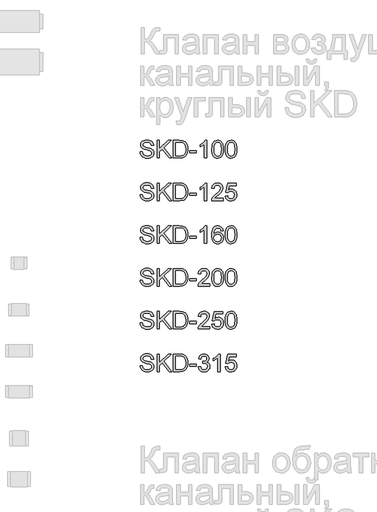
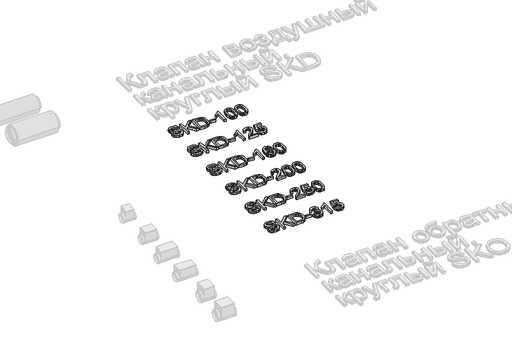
# One storey, part 10 of 31: 1 proxy.
"""IFC4 building model written with IfcOpenShell, lengths in millimetres."""

from ifc_helpers import new_model, si_unit, origin, origin_with_axes, place, context, project, spatial, polyline, outline, extrude, element, save

model = new_model("IFC4")

# Units and contexts
model_context = context("Model", 3, world=origin())
ifc_project = project(units=[si_unit("LENGTHUNIT", "METRE", prefix="MILLI")], contexts=[model_context])

# Site, building, storey
site = spatial("IfcSite", under=ifc_project)
building = spatial("IfcBuilding", under=site)
storey = spatial("IfcBuildingStorey", under=building, Name="Этаж 01", Elevation=0.0)

# Proxy
placement = place(None, origin())
element("IfcBuildingElementProxy", 1, Name="300 мм Arial", ObjectType="300 мм Arial", at=placement, inside=storey, context=model_context, shape_type="SweptSolid", body=[
    extrude(outline(polyline([(10401.5155654, -17131.4797028), (10439.1866817, -17131.4797028), (10443.5092951, -17152.3845972), (10451.3267875, -17169.1876073), (10463.5220757, -17182.5233296), (10480.9780763, -17193.0263606), (10502.3152321, -17199.8413745), (10526.1539854, -17202.1130459), (10547.1416532, -17200.3931975), (10565.5173588, -17195.2336526), (10580.4073826, -17187.0666723), (10590.9380047, -17176.324518), (10597.2011957, -17163.9912741), (10599.288926, -17151.0510249), (10597.7254275, -17138.4418696), (10593.0349321, -17127.5433654), (10583.5067884, -17118.245148), (10567.4303452, -17110.4368527), (10512.5791397, -17096.0526667), (10476.5726895, -17086.53372), (10453.5340795, -17077.4746259), (10434.7812948, -17064.8010912), (10421.4915577, -17049.4420179), (10413.5728978, -17031.7284998), (10410.9333445, -17011.9916308), (10414.1982972, -16989.9279081), (10423.9931553, -16969.3541075), (10440.0604014, -16951.9165009), (10462.1425182, -16939.2613603), (10488.6484159, -16931.5634296), (10517.9870051, -16928.9974526), (10549.7720094, -16931.6829912), (10577.5838883, -16939.7396069), (10600.4293602, -16953.0017528), (10617.3151438, -16971.3038821), (10628.0021157, -16993.5055605), (10632.2511528, -17018.4663539), (10594.5800365, -17018.4663539), (10587.6638549, -16995.988764), (10573.2428807, -16979.765168), (10550.7101085, -16969.9427187), (10519.458533, -16966.668569), (10487.4711936, -16969.9059305), (10465.5270325, -16979.6180152), (10452.8351037, -16993.9102307), (10448.6044608, -17010.8879848), (10451.602699, -17025.3641413), (10460.5974138, -17037.0076064), (10481.8609931, -17047.4186669), (10522.1072834, -17058.0504566), (10563.6411607, -17068.1488173), (10588.7675009, -17076.9595911), (10610.2426124, -17090.6264072), (10625.2246067, -17107.4937967), (10634.0261834, -17127.3778185), (10636.9600423, -17150.0945317), (10633.584725, -17173.3170827), (10623.4587731, -17195.1600762), (10606.9960538, -17213.9588461), (10584.6104344, -17228.0487265), (10557.6906694, -17236.8503033), (10527.6255133, -17239.7841622), (10490.7177522, -17236.620377), (10460.3398964, -17227.1290215), (10436.1424582, -17211.2733075), (10417.7759496, -17189.0164468), (10405.9853316, -17161.9035438), (10401.5155654, -17131.4797028)])), origin_with_axes(), (0.0, 0.0, 1.0), 50.0),
    extrude(outline(polyline([(10693.4667168, -17235.0752726), (10693.4667168, -16933.7063422), (10731.1378331, -16933.7063422), (10731.1378331, -17081.2270223), (10885.648271, -16933.7063422), (10938.3289728, -16933.7063422), (10808.6137813, -17057.6089982), (10943.0378623, -17235.0752726), (10896.9790365, -17235.0752726), (10781.9055484, -17083.0664322), (10731.1378331, -17131.4797028), (10731.1378331, -17235.0752726), (10693.4667168, -17235.0752726)])), origin_with_axes(), (0.0, 0.0, 1.0), 50.0),
    extrude(outline(polyline([(10971.2911995, -17235.0752726), (10971.2911995, -16933.7063422), (11075.2546514, -16933.7063422), (11129.0389991, -16938.0473497), (11153.0616933, -16946.4166651), (11173.3319913, -16959.6052346), (11194.1725063, -16982.5610711), (11209.0165448, -17011.108714), (11217.900895, -17044.6963401), (11220.862345, -17082.7721266), (11218.8573882, -17115.1181511), (11212.8425176, -17143.5830204), (11203.6822559, -17167.8172469), (11192.2411258, -17187.4713425), (11179.0709504, -17202.9867656), (11164.7235526, -17214.8049747), (11148.2516362, -17223.5697632), (11128.7079053, -17229.9249247), (11080.2578465, -17235.0752726), (10971.2911995, -17235.0752726)]), holes=[polyline([(11008.9623158, -17197.4041563), (11075.6225334, -17197.4041563), (11103.1952889, -17196.0429929), (11124.1093803, -17191.9595028), (11139.8915179, -17185.3928092), (11152.0684119, -17176.5820354), (11165.1558139, -17160.275666), (11174.9874602, -17139.1684365), (11181.1402866, -17113.1683765), (11183.1912287, -17082.1835154), (11179.1721179, -17041.1278848), (11167.1147856, -17010.8144084), (11149.3000999, -16989.9922874), (11128.0089295, -16977.4107232), (11106.3406799, -16972.8857747), (11074.5924638, -16971.3774585), (11008.9623158, -16971.3774585), (11008.9623158, -17197.4041563)])]), origin_with_axes(), (0.0, 0.0, 1.0), 50.0),
    extrude(outline(polyline([(11249.1156823, -17145.6063714), (11249.1156823, -17107.9352551), (11366.8379207, -17107.9352551), (11366.8379207, -17145.6063714), (11249.1156823, -17145.6063714)])), origin_with_axes(), (0.0, 0.0, 1.0), 50.0),
    extrude(outline(polyline([(11541.0668336, -17235.0752726), (11503.3957173, -17235.0752726), (11503.3957173, -17000.2194069), (11467.7111638, -17025.6400528), (11428.0534847, -17044.6595519), (11428.0534847, -17009.0485748), (11457.6403942, -16992.9537375), (11483.2725722, -16973.8054797), (11503.4784908, -16953.4432112), (11516.786622, -16933.7063422), (11541.0668336, -16933.7063422), (11541.0668336, -17235.0752726)])), origin_with_axes(), (0.0, 0.0, 1.0), 50.0),
    extrude(outline(polyline([(11630.5357349, -17086.8188286), (11633.3040469, -17038.580302), (11641.6089829, -17000.1090423), (11655.3677695, -16970.8164384), (11674.4976333, -16950.1138792), (11699.1365299, -16937.8082264), (11729.4224152, -16933.7063422), (11752.6357691, -16936.1343634), (11773.4211018, -16943.4184269), (11790.8035261, -16955.2734242), (11803.8081546, -16971.4142467), (11813.6306039, -16991.7029387), (11821.4664904, -17016.0015445), (11826.5984442, -17046.8576469), (11828.3090955, -17086.8188286), (11825.5683746, -17134.7814437), (11817.346212, -17173.1607328), (11803.6701989, -17202.4809279), (11784.5679263, -17223.2662606), (11759.8738473, -17235.6546868), (11729.4224152, -17239.7841622), (11708.6738707, -17237.9907374), (11690.2797709, -17232.6104633), (11674.2401159, -17223.6433396), (11660.5549057, -17211.0893665), (11647.4215185, -17188.395646), (11638.0405276, -17160.1193161), (11632.4119331, -17126.260377), (11630.5357349, -17086.8188286)]), holes=[polyline([(11668.2068512, -17086.7452522), (11672.6214351, -17146.0018446), (11678.1396651, -17166.2698432), (11685.8651869, -17180.2976436), (11705.5836619, -17196.6591953), (11729.4224152, -17202.1130459), (11753.2611685, -17196.6408012), (11772.9796434, -17180.2240672), (11780.7051653, -17166.1732742), (11786.2233952, -17145.9098741), (11790.6379792, -17086.7452522), (11786.370548, -17028.822232), (11781.0362591, -17008.620912), (11773.5682546, -16994.2597186), (11753.8865679, -16977.0980235), (11728.9809568, -16971.3774585), (11705.3997209, -16976.4174418), (11686.4537981, -16991.5373918), (11678.4707588, -17007.1723766), (11672.7685879, -17028.2520149), (11668.2068512, -17086.7452522)])]), origin_with_axes(), (0.0, 0.0, 1.0), 50.0),
    extrude(outline(polyline([(11861.2713223, -17086.8188286), (11864.0396343, -17038.580302), (11872.3445703, -17000.1090423), (11886.1033569, -16970.8164384), (11905.2332207, -16950.1138792), (11929.8721173, -16937.8082264), (11960.1580026, -16933.7063422), (11983.3713564, -16936.1343634), (12004.1566892, -16943.4184269), (12021.5391134, -16955.2734242), (12034.543742, -16971.4142467), (12044.3661912, -16991.7029387), (12052.2020777, -17016.0015445), (12057.3340316, -17046.8576469), (12059.0446829, -17086.8188286), (12056.303962, -17134.7814437), (12048.0817994, -17173.1607328), (12034.4057862, -17202.4809279), (12015.3035136, -17223.2662606), (11990.6094347, -17235.6546868), (11960.1580026, -17239.7841622), (11939.409458, -17237.9907374), (11921.0153583, -17232.6104633), (11904.9757033, -17223.6433396), (11891.2904931, -17211.0893665), (11878.1571058, -17188.395646), (11868.776115, -17160.1193161), (11863.1475204, -17126.260377), (11861.2713223, -17086.8188286)]), holes=[polyline([(11898.9424386, -17086.7452522), (11903.3570225, -17146.0018446), (11908.8752524, -17166.2698432), (11916.6007743, -17180.2976436), (11936.3192493, -17196.6591953), (11960.1580026, -17202.1130459), (11983.9967558, -17196.6408012), (12003.7152308, -17180.2240672), (12011.4407527, -17166.1732742), (12016.9589826, -17145.9098741), (12021.3735666, -17086.7452522), (12017.1061354, -17028.822232), (12011.7718465, -17008.620912), (12004.303842, -16994.2597186), (11984.6221552, -16977.0980235), (11959.7165442, -16971.3774585), (11936.1353083, -16976.4174418), (11917.1893855, -16991.5373918), (11909.2063462, -17007.1723766), (11903.5041753, -17028.2520149), (11898.9424386, -17086.7452522)])]), origin_with_axes(), (0.0, 0.0, 1.0), 50.0),
    extrude(outline(polyline([(10401.5155654, -17863.3286099), (10439.1866817, -17863.3286099), (10443.5092951, -17884.2335042), (10451.3267875, -17901.0365144), (10463.5220757, -17914.3722367), (10480.9780763, -17924.8752677), (10502.3152321, -17931.6902816), (10526.1539854, -17933.9619529), (10547.1416532, -17932.2421046), (10565.5173588, -17927.0825596), (10580.4073826, -17918.9155793), (10590.9380047, -17908.1734251), (10597.2011957, -17895.8401812), (10599.288926, -17882.899932), (10597.7254275, -17870.2907766), (10593.0349321, -17859.3922725), (10583.5067884, -17850.0940551), (10567.4303452, -17842.2857597), (10512.5791397, -17827.9015737), (10476.5726895, -17818.3826271), (10453.5340795, -17809.323533), (10434.7812948, -17796.6499982), (10421.4915577, -17781.2909249), (10413.5728978, -17763.5774069), (10410.9333445, -17743.8405378), (10414.1982972, -17721.7768152), (10423.9931553, -17701.2030146), (10440.0604014, -17683.765408), (10462.1425182, -17671.1102674), (10488.6484159, -17663.4123366), (10517.9870051, -17660.8463597), (10549.7720094, -17663.5318983), (10577.5838883, -17671.588514), (10600.4293602, -17684.8506599), (10617.3151438, -17703.1527892), (10628.0021157, -17725.3544676), (10632.2511528, -17750.3152609), (10594.5800365, -17750.3152609), (10587.6638549, -17727.837671), (10573.2428807, -17711.6140751), (10550.7101085, -17701.7916258), (10519.458533, -17698.517476), (10487.4711936, -17701.7548376), (10465.5270325, -17711.4669223), (10452.8351037, -17725.7591378), (10448.6044608, -17742.7368918), (10451.602699, -17757.2130484), (10460.5974138, -17768.8565135), (10481.8609931, -17779.267574), (10522.1072834, -17789.8993636), (10563.6411607, -17799.9977244), (10588.7675009, -17808.8084982), (10610.2426124, -17822.4753143), (10625.2246067, -17839.3427038), (10634.0261834, -17859.2267256), (10636.9600423, -17881.9434388), (10633.584725, -17905.1659898), (10623.4587731, -17927.0089832), (10606.9960538, -17945.8077532), (10584.6104344, -17959.8976336), (10557.6906694, -17968.6992103), (10527.6255133, -17971.6330692), (10490.7177522, -17968.4692841), (10460.3398964, -17958.9779286), (10436.1424582, -17943.1222146), (10417.7759496, -17920.8653539), (10405.9853316, -17893.7524509), (10401.5155654, -17863.3286099)])), origin_with_axes(), (0.0, 0.0, 1.0), 50.0),
    extrude(outline(polyline([(10693.4667168, -17966.9241797), (10693.4667168, -17665.5552493), (10731.1378331, -17665.5552493), (10731.1378331, -17813.0759293), (10885.648271, -17665.5552493), (10938.3289728, -17665.5552493), (10808.6137813, -17789.4579052), (10943.0378623, -17966.9241797), (10896.9790365, -17966.9241797), (10781.9055484, -17814.9153393), (10731.1378331, -17863.3286099), (10731.1378331, -17966.9241797), (10693.4667168, -17966.9241797)])), origin_with_axes(), (0.0, 0.0, 1.0), 50.0),
    extrude(outline(polyline([(10971.2911995, -17966.9241797), (10971.2911995, -17665.5552493), (11075.2546514, -17665.5552493), (11129.0389991, -17669.8962568), (11153.0616933, -17678.2655722), (11173.3319913, -17691.4541417), (11194.1725063, -17714.4099782), (11209.0165448, -17742.957621), (11217.900895, -17776.5452472), (11220.862345, -17814.6210337), (11218.8573882, -17846.9670581), (11212.8425176, -17875.4319275), (11203.6822559, -17899.6661539), (11192.2411258, -17919.3202495), (11179.0709504, -17934.8356727), (11164.7235526, -17946.6538818), (11148.2516362, -17955.4186703), (11128.7079053, -17961.7738318), (11080.2578465, -17966.9241797), (10971.2911995, -17966.9241797)]), holes=[polyline([(11008.9623158, -17929.2530634), (11075.6225334, -17929.2530634), (11103.1952889, -17927.8919), (11124.1093803, -17923.8084099), (11139.8915179, -17917.2417163), (11152.0684119, -17908.4309425), (11165.1558139, -17892.124573), (11174.9874602, -17871.0173436), (11181.1402866, -17845.0172836), (11183.1912287, -17814.0324225), (11179.1721179, -17772.9767918), (11167.1147856, -17742.6633154), (11149.3000999, -17721.8411945), (11128.0089295, -17709.2596303), (11106.3406799, -17704.7346817), (11074.5924638, -17703.2263656), (11008.9623158, -17703.2263656), (11008.9623158, -17929.2530634)])]), origin_with_axes(), (0.0, 0.0, 1.0), 50.0),
    extrude(outline(polyline([(11249.1156823, -17877.4552785), (11249.1156823, -17839.7841622), (11366.8379207, -17839.7841622), (11366.8379207, -17877.4552785), (11249.1156823, -17877.4552785)])), origin_with_axes(), (0.0, 0.0, 1.0), 50.0),
    extrude(outline(polyline([(11541.0668336, -17966.9241797), (11503.3957173, -17966.9241797), (11503.3957173, -17732.068314), (11467.7111638, -17757.4889599), (11428.0534847, -17776.508459), (11428.0534847, -17740.8974819), (11457.6403942, -17724.8026446), (11483.2725722, -17705.6543867), (11503.4784908, -17685.2921183), (11516.786622, -17665.5552493), (11541.0668336, -17665.5552493), (11541.0668336, -17966.9241797)])), origin_with_axes(), (0.0, 0.0, 1.0), 50.0),
    extrude(outline(polyline([(11823.6002059, -17929.2530634), (11823.6002059, -17966.9241797), (11625.8268453, -17966.9241797), (11629.8735473, -17940.9517108), (11639.1625677, -17920.6538218), (11652.7558074, -17900.962938), (11672.4191, -17880.3523492), (11699.9182792, -17857.2953451), (11740.5692396, -17821.1877273), (11764.9598159, -17794.5346768), (11777.1551041, -17772.9032154), (11781.2202001, -17751.8603653), (11777.3850303, -17732.997216), (11765.8795209, -17717.316246), (11748.193594, -17706.7488357), (11725.8171716, -17703.2263656), (11702.3187092, -17706.6660622), (11684.0625652, -17716.9851522), (11672.2811443, -17733.3742951), (11668.2068512, -17755.0241505), (11630.5357349, -17750.3152609), (11639.6684054, -17713.8765493), (11648.214764, -17699.340612), (11659.4144715, -17687.260287), (11673.0100105, -17677.764333), (11688.7438636, -17670.9815087), (11726.626512, -17665.5552493), (11746.8163358, -17667.0635654), (11764.785072, -17671.588514), (11780.5327206, -17679.1300949), (11794.0592817, -17689.6883081), (11804.9232969, -17702.4814045), (11812.6833077, -17716.7276348), (11817.3393142, -17732.4269989), (11818.8913164, -17749.579497), (11817.2174533, -17767.5965177), (11812.1958641, -17785.3008387), (11803.2839228, -17803.3086624), (11789.9390034, -17822.236191), (11768.666227, -17844.8333426), (11735.9707147, -17873.8500349), (11692.6342157, -17910.0864115), (11675.6380675, -17929.2530634), (11823.6002059, -17929.2530634)])), origin_with_axes(), (0.0, 0.0, 1.0), 50.0),
    extrude(outline(polyline([(11861.2713223, -17886.8730576), (11898.9424386, -17882.164168), (11905.8586201, -17904.7797137), (11917.9251495, -17920.9757185), (11935.0868446, -17930.7153943), (11957.288523, -17933.9619529), (11984.2910614, -17929.4462014), (12004.5245712, -17915.898947), (12017.1613177, -17894.883688), (12021.3735666, -17867.963923), (12017.4280322, -17842.6168535), (12005.591429, -17823.2294724), (11985.7717865, -17810.9238197), (11957.8771342, -17806.8219354), (11939.6025961, -17808.4590103), (11924.8045428, -17813.3702349), (11903.6513281, -17830.3663831), (11865.9802118, -17825.6574936), (11898.9424386, -17670.2641388), (12044.9180142, -17670.2641388), (12044.9180142, -17707.9352551), (11929.4030678, -17707.9352551), (11913.2898364, -17790.9294332), (11940.2004043, -17774.5954726), (11968.3985592, -17769.1508191), (11986.7443745, -17770.8384778), (12003.5956691, -17775.9014537), (12018.9524432, -17784.339747), (12032.8146966, -17796.1533575), (12044.2903156, -17810.620317), (12052.4871863, -17827.0186569), (12057.4053087, -17845.3483774), (12059.0446829, -17865.6094782), (12053.1401768, -17903.2805945), (12045.7595443, -17920.0744076), (12035.4266588, -17935.5070573), (12019.7732799, -17951.3121875), (12001.5079388, -17962.6015663), (11980.6306356, -17969.3751935), (11957.1413702, -17971.6330692), (11920.1416385, -17965.8297308), (11904.4629677, -17958.5755577), (11890.6650937, -17948.4197153), (11879.1848762, -17935.8680415), (11870.4591751, -17921.426374), (11861.2713223, -17886.8730576)])), origin_with_axes(), (0.0, 0.0, 1.0), 50.0),
    extrude(outline(polyline([(10401.5155654, -18595.1775169), (10439.1866817, -18595.1775169), (10443.5092951, -18616.0824113), (10451.3267875, -18632.8854214), (10463.5220757, -18646.2211438), (10480.9780763, -18656.7241747), (10502.3152321, -18663.5391887), (10526.1539854, -18665.81086), (10547.1416532, -18664.0910117), (10565.5173588, -18658.9314667), (10580.4073826, -18650.7644864), (10590.9380047, -18640.0223321), (10597.2011957, -18627.6890883), (10599.288926, -18614.7488391), (10597.7254275, -18602.1396837), (10593.0349321, -18591.2411796), (10583.5067884, -18581.9429622), (10567.4303452, -18574.1346668), (10512.5791397, -18559.7504808), (10476.5726895, -18550.2315342), (10453.5340795, -18541.17244), (10434.7812948, -18528.4989053), (10421.4915577, -18513.139832), (10413.5728978, -18495.4263139), (10410.9333445, -18475.6894449), (10414.1982972, -18453.6257222), (10423.9931553, -18433.0519217), (10440.0604014, -18415.6143151), (10462.1425182, -18402.9591745), (10488.6484159, -18395.2612437), (10517.9870051, -18392.6952668), (10549.7720094, -18395.3808054), (10577.5838883, -18403.437421), (10600.4293602, -18416.699567), (10617.3151438, -18435.0016962), (10628.0021157, -18457.2033746), (10632.2511528, -18482.164168), (10594.5800365, -18482.164168), (10587.6638549, -18459.6865781), (10573.2428807, -18443.4629821), (10550.7101085, -18433.6405329), (10519.458533, -18430.3663831), (10487.4711936, -18433.6037447), (10465.5270325, -18443.3158293), (10452.8351037, -18457.6080448), (10448.6044608, -18474.5857989), (10451.602699, -18489.0619554), (10460.5974138, -18500.7054206), (10481.8609931, -18511.116481), (10522.1072834, -18521.7482707), (10563.6411607, -18531.8466315), (10588.7675009, -18540.6574053), (10610.2426124, -18554.3242214), (10625.2246067, -18571.1916109), (10634.0261834, -18591.0756327), (10636.9600423, -18613.7923459), (10633.584725, -18637.0148968), (10623.4587731, -18658.8578903), (10606.9960538, -18677.6566603), (10584.6104344, -18691.7465407), (10557.6906694, -18700.5481174), (10527.6255133, -18703.4819763), (10490.7177522, -18700.3181912), (10460.3398964, -18690.8268357), (10436.1424582, -18674.9711217), (10417.7759496, -18652.714261), (10405.9853316, -18625.6013579), (10401.5155654, -18595.1775169)])), origin_with_axes(), (0.0, 0.0, 1.0), 50.0),
    extrude(outline(polyline([(10693.4667168, -18698.7730868), (10693.4667168, -18397.4041563), (10731.1378331, -18397.4041563), (10731.1378331, -18544.9248364), (10885.648271, -18397.4041563), (10938.3289728, -18397.4041563), (10808.6137813, -18521.3068123), (10943.0378623, -18698.7730868), (10896.9790365, -18698.7730868), (10781.9055484, -18546.7642464), (10731.1378331, -18595.1775169), (10731.1378331, -18698.7730868), (10693.4667168, -18698.7730868)])), origin_with_axes(), (0.0, 0.0, 1.0), 50.0),
    extrude(outline(polyline([(10971.2911995, -18698.7730868), (10971.2911995, -18397.4041563), (11075.2546514, -18397.4041563), (11129.0389991, -18401.7451639), (11153.0616933, -18410.1144793), (11173.3319913, -18423.3030488), (11194.1725063, -18446.2588853), (11209.0165448, -18474.8065281), (11217.900895, -18508.3941543), (11220.862345, -18546.4699408), (11218.8573882, -18578.8159652), (11212.8425176, -18607.2808346), (11203.6822559, -18631.515061), (11192.2411258, -18651.1691566), (11179.0709504, -18666.6845797), (11164.7235526, -18678.5027888), (11148.2516362, -18687.2675774), (11128.7079053, -18693.6227388), (11080.2578465, -18698.7730868), (10971.2911995, -18698.7730868)]), holes=[polyline([(11008.9623158, -18661.1019705), (11075.6225334, -18661.1019705), (11103.1952889, -18659.7408071), (11124.1093803, -18655.6573169), (11139.8915179, -18649.0906233), (11152.0684119, -18640.2798495), (11165.1558139, -18623.9734801), (11174.9874602, -18602.8662506), (11181.1402866, -18576.8661906), (11183.1912287, -18545.8813296), (11179.1721179, -18504.8256989), (11167.1147856, -18474.5122225), (11149.3000999, -18453.6901016), (11128.0089295, -18441.1085374), (11106.3406799, -18436.5835888), (11074.5924638, -18435.0752726), (11008.9623158, -18435.0752726), (11008.9623158, -18661.1019705)])]), origin_with_axes(), (0.0, 0.0, 1.0), 50.0),
    extrude(outline(polyline([(11249.1156823, -18609.3041856), (11249.1156823, -18571.6330692), (11366.8379207, -18571.6330692), (11366.8379207, -18609.3041856), (11249.1156823, -18609.3041856)])), origin_with_axes(), (0.0, 0.0, 1.0), 50.0),
    extrude(outline(polyline([(11541.0668336, -18698.7730868), (11503.3957173, -18698.7730868), (11503.3957173, -18463.9172211), (11467.7111638, -18489.3378669), (11428.0534847, -18508.3573661), (11428.0534847, -18472.7463889), (11457.6403942, -18456.6515517), (11483.2725722, -18437.5032938), (11503.4784908, -18417.1410254), (11516.786622, -18397.4041563), (11541.0668336, -18397.4041563), (11541.0668336, -18698.7730868)])), origin_with_axes(), (0.0, 0.0, 1.0), 50.0),
    extrude(outline(polyline([(11823.6002059, -18477.4552785), (11785.9290896, -18482.164168), (11779.8590367, -18463.4941568), (11771.6552682, -18450.7470456), (11754.5671495, -18438.9932159), (11733.9105755, -18435.0752726), (11716.3993925, -18437.356141), (11699.9182792, -18444.1987461), (11685.7640194, -18458.6105233), (11674.2033277, -18478.4485599), (11666.3950324, -18506.508759), (11663.4979616, -18545.587024), (11678.6087146, -18527.9562794), (11696.7177058, -18515.531065), (11716.8132598, -18508.164228), (11737.8837011, -18505.7086157), (11755.9834952, -18507.3870773), (11772.6853378, -18512.4224621), (11787.9892288, -18520.8147701), (11801.8951682, -18532.5640014), (11813.4512614, -18546.97118), (11821.7056137, -18563.3373303), (11826.658225, -18581.6624521), (11828.3090955, -18601.9465456), (11825.2004926, -18628.9214929), (11815.874684, -18653.9282716), (11801.1042219, -18675.1366686), (11781.6616585, -18690.7164711), (11758.4299105, -18700.2906), (11732.2918947, -18703.4819763), (11709.8349982, -18701.3666548), (11689.553204, -18695.0206904), (11671.446512, -18684.4440831), (11655.5149223, -18669.6368328), (11642.5263887, -18649.9735401), (11633.2488646, -18624.8288057), (11627.6823502, -18594.2026296), (11625.8268453, -18558.0950118), (11627.8869845, -18517.6141968), (11634.067402, -18483.0654789), (11644.3680979, -18454.4488582), (11658.7890721, -18431.7643347), (11674.4194584, -18416.7317567), (11692.5422452, -18405.9942009), (11713.1574325, -18399.5516675), (11736.2650203, -18397.4041563), (11769.3192176, -18402.7200512), (11795.7883271, -18418.6677356), (11814.3295797, -18443.996411), (11823.6002059, -18477.4552785)]), holes=[polyline([(11663.4979616, -18601.3579345), (11665.6776625, -18618.05058), (11672.2167649, -18633.9890674), (11682.370308, -18647.6926717), (11695.3933306, -18657.6806679), (11711.1110889, -18663.778312), (11729.3488388, -18665.81086), (11754.2084646, -18661.5986112), (11773.7521956, -18648.9618646), (11786.4165333, -18629.0962369), (11790.6379792, -18603.1973444), (11786.4717156, -18578.3377186), (11773.9729248, -18559.3825988), (11754.0981, -18547.3804487), (11727.8037344, -18543.379732), (11702.9808968, -18547.3804487), (11682.2231552, -18559.3825988), (11668.17926, -18577.8778661), (11663.4979616, -18601.3579345)])]), origin_with_axes(), (0.0, 0.0, 1.0), 50.0),
    extrude(outline(polyline([(11861.2713223, -18550.5166427), (11864.0396343, -18502.2781161), (11872.3445703, -18463.8068565), (11886.1033569, -18434.5142526), (11905.2332207, -18413.8116933), (11929.8721173, -18401.5060406), (11960.1580026, -18397.4041563), (11983.3713564, -18399.8321775), (12004.1566892, -18407.116241), (12021.5391134, -18418.9712383), (12034.543742, -18435.1120608), (12044.3661912, -18455.4007529), (12052.2020777, -18479.6993586), (12057.3340316, -18510.555461), (12059.0446829, -18550.5166427), (12056.303962, -18598.4792578), (12048.0817994, -18636.858547), (12034.4057862, -18666.178742), (12015.3035136, -18686.9640747), (11990.6094347, -18699.3525009), (11960.1580026, -18703.4819763), (11939.409458, -18701.6885516), (11921.0153583, -18696.3082774), (11904.9757033, -18687.3411538), (11891.2904931, -18674.7871807), (11878.1571058, -18652.0934601), (11868.776115, -18623.8171303), (11863.1475204, -18589.9581911), (11861.2713223, -18550.5166427)]), holes=[polyline([(11898.9424386, -18550.4430663), (11903.3570225, -18609.6996587), (11908.8752524, -18629.9676574), (11916.6007743, -18643.9954577), (11936.3192493, -18660.3570094), (11960.1580026, -18665.81086), (11983.9967558, -18660.3386153), (12003.7152308, -18643.9218813), (12011.4407527, -18629.8710883), (12016.9589826, -18609.6076882), (12021.3735666, -18550.4430663), (12017.1061354, -18492.5200462), (12011.7718465, -18472.3187261), (12004.303842, -18457.9575327), (11984.6221552, -18440.7958377), (11959.7165442, -18435.0752726), (11936.1353083, -18440.115256), (11917.1893855, -18455.235206), (11909.2063462, -18470.8701908), (11903.5041753, -18491.9498291), (11898.9424386, -18550.4430663)])]), origin_with_axes(), (0.0, 0.0, 1.0), 50.0),
    extrude(outline(polyline([(10401.5155654, -19327.026424), (10439.1866817, -19327.026424), (10443.5092951, -19347.9313184), (10451.3267875, -19364.7343285), (10463.5220757, -19378.0700508), (10480.9780763, -19388.5730818), (10502.3152321, -19395.3880958), (10526.1539854, -19397.6597671), (10547.1416532, -19395.9399188), (10565.5173588, -19390.7803738), (10580.4073826, -19382.6133935), (10590.9380047, -19371.8712392), (10597.2011957, -19359.5379953), (10599.288926, -19346.5977462), (10597.7254275, -19333.9885908), (10593.0349321, -19323.0900867), (10583.5067884, -19313.7918692), (10567.4303452, -19305.9835739), (10512.5791397, -19291.5993879), (10476.5726895, -19282.0804412), (10453.5340795, -19273.0213471), (10434.7812948, -19260.3478124), (10421.4915577, -19244.9887391), (10413.5728978, -19227.275221), (10410.9333445, -19207.538352), (10414.1982972, -19185.4746293), (10423.9931553, -19164.9008287), (10440.0604014, -19147.4632222), (10462.1425182, -19134.8080815), (10488.6484159, -19127.1101508), (10517.9870051, -19124.5441739), (10549.7720094, -19127.2297124), (10577.5838883, -19135.2863281), (10600.4293602, -19148.548474), (10617.3151438, -19166.8506033), (10628.0021157, -19189.0522817), (10632.2511528, -19214.0130751), (10594.5800365, -19214.0130751), (10587.6638549, -19191.5354852), (10573.2428807, -19175.3118892), (10550.7101085, -19165.4894399), (10519.458533, -19162.2152902), (10487.4711936, -19165.4526517), (10465.5270325, -19175.1647364), (10452.8351037, -19189.4569519), (10448.6044608, -19206.434706), (10451.602699, -19220.9108625), (10460.5974138, -19232.5543276), (10481.8609931, -19242.9653881), (10522.1072834, -19253.5971778), (10563.6411607, -19263.6955385), (10588.7675009, -19272.5063123), (10610.2426124, -19286.1731284), (10625.2246067, -19303.0405179), (10634.0261834, -19322.9245398), (10636.9600423, -19345.641253), (10633.584725, -19368.8638039), (10623.4587731, -19390.7067974), (10606.9960538, -19409.5055673), (10584.6104344, -19423.5954477), (10557.6906694, -19432.3970245), (10527.6255133, -19435.3308834), (10490.7177522, -19432.1670982), (10460.3398964, -19422.6757428), (10436.1424582, -19406.8200288), (10417.7759496, -19384.5631681), (10405.9853316, -19357.450265), (10401.5155654, -19327.026424)])), origin_with_axes(), (0.0, 0.0, 1.0), 50.0),
    extrude(outline(polyline([(10693.4667168, -19430.6219938), (10693.4667168, -19129.2530634), (10731.1378331, -19129.2530634), (10731.1378331, -19276.7737435), (10885.648271, -19129.2530634), (10938.3289728, -19129.2530634), (10808.6137813, -19253.1557194), (10943.0378623, -19430.6219938), (10896.9790365, -19430.6219938), (10781.9055484, -19278.6131534), (10731.1378331, -19327.026424), (10731.1378331, -19430.6219938), (10693.4667168, -19430.6219938)])), origin_with_axes(), (0.0, 0.0, 1.0), 50.0),
    extrude(outline(polyline([(10971.2911995, -19430.6219938), (10971.2911995, -19129.2530634), (11075.2546514, -19129.2530634), (11129.0389991, -19133.5940709), (11153.0616933, -19141.9633863), (11173.3319913, -19155.1519559), (11194.1725063, -19178.1077924), (11209.0165448, -19206.6554352), (11217.900895, -19240.2430613), (11220.862345, -19278.3188478), (11218.8573882, -19310.6648723), (11212.8425176, -19339.1297416), (11203.6822559, -19363.3639681), (11192.2411258, -19383.0180637), (11179.0709504, -19398.5334868), (11164.7235526, -19410.3516959), (11148.2516362, -19419.1164844), (11128.7079053, -19425.4716459), (11080.2578465, -19430.6219938), (10971.2911995, -19430.6219938)]), holes=[polyline([(11008.9623158, -19392.9508775), (11075.6225334, -19392.9508775), (11103.1952889, -19391.5897142), (11124.1093803, -19387.506224), (11139.8915179, -19380.9395304), (11152.0684119, -19372.1287566), (11165.1558139, -19355.8223872), (11174.9874602, -19334.7151577), (11181.1402866, -19308.7150977), (11183.1912287, -19277.7302367), (11179.1721179, -19236.674606), (11167.1147856, -19206.3611296), (11149.3000999, -19185.5390087), (11128.0089295, -19172.9574444), (11106.3406799, -19168.4324959), (11074.5924638, -19166.9241797), (11008.9623158, -19166.9241797), (11008.9623158, -19392.9508775)])]), origin_with_axes(), (0.0, 0.0, 1.0), 50.0),
    extrude(outline(polyline([(11249.1156823, -19341.1530926), (11249.1156823, -19303.4819763), (11366.8379207, -19303.4819763), (11366.8379207, -19341.1530926), (11249.1156823, -19341.1530926)])), origin_with_axes(), (0.0, 0.0, 1.0), 50.0),
    extrude(outline(polyline([(11592.8646186, -19392.9508775), (11592.8646186, -19430.6219938), (11395.091258, -19430.6219938), (11399.1379599, -19404.649525), (11408.4269803, -19384.3516359), (11422.02022, -19364.6607521), (11441.6835127, -19344.0501633), (11469.1826918, -19320.9931593), (11509.8336523, -19284.8855415), (11534.2242285, -19258.2324909), (11546.4195167, -19236.6010296), (11550.4846127, -19215.5581795), (11546.6494429, -19196.6950302), (11535.1439335, -19181.0140601), (11517.4580066, -19170.4466498), (11495.0815843, -19166.9241797), (11471.5831218, -19170.3638764), (11453.3269778, -19180.6829663), (11441.5455569, -19197.0721092), (11437.4712638, -19218.7219646), (11399.8001475, -19214.0130751), (11408.932818, -19177.5743635), (11417.4791766, -19163.0384261), (11428.6788841, -19150.9581011), (11442.2744231, -19141.4621471), (11458.0082762, -19134.6793228), (11495.8909246, -19129.2530634), (11516.0807484, -19130.7613796), (11534.0494846, -19135.2863281), (11549.7971332, -19142.827909), (11563.3236944, -19153.3861223), (11574.1877095, -19166.1792187), (11581.9477204, -19180.4254489), (11586.6037269, -19196.1248131), (11588.155729, -19213.2773111), (11586.481866, -19231.2943318), (11581.4602767, -19248.9986528), (11572.5483354, -19267.0064765), (11559.203416, -19285.9340051), (11537.9306396, -19308.5311567), (11505.2351273, -19337.5478491), (11461.8986283, -19373.7842256), (11444.9024801, -19392.9508775), (11592.8646186, -19392.9508775)])), origin_with_axes(), (0.0, 0.0, 1.0), 50.0),
    extrude(outline(polyline([(11630.5357349, -19282.3655498), (11633.3040469, -19234.1270232), (11641.6089829, -19195.6557635), (11655.3677695, -19166.3631597), (11674.4976333, -19145.6606004), (11699.1365299, -19133.3549476), (11729.4224152, -19129.2530634), (11752.6357691, -19131.6810846), (11773.4211018, -19138.9651481), (11790.8035261, -19150.8201454), (11803.8081546, -19166.9609679), (11813.6306039, -19187.2496599), (11821.4664904, -19211.5482657), (11826.5984442, -19242.4043681), (11828.3090955, -19282.3655498), (11825.5683746, -19330.3281649), (11817.346212, -19368.7074541), (11803.6701989, -19398.0276491), (11784.5679263, -19418.8129818), (11759.8738473, -19431.201408), (11729.4224152, -19435.3308834), (11708.6738707, -19433.5374587), (11690.2797709, -19428.1571845), (11674.2401159, -19419.1900608), (11660.5549057, -19406.6360878), (11647.4215185, -19383.9423672), (11638.0405276, -19355.6660373), (11632.4119331, -19321.8070982), (11630.5357349, -19282.3655498)]), holes=[polyline([(11668.2068512, -19282.2919734), (11672.6214351, -19341.5485658), (11678.1396651, -19361.8165644), (11685.8651869, -19375.8443648), (11705.5836619, -19392.2059165), (11729.4224152, -19397.6597671), (11753.2611685, -19392.1875224), (11772.9796434, -19375.7707884), (11780.7051653, -19361.7199954), (11786.2233952, -19341.4565953), (11790.6379792, -19282.2919734), (11786.370548, -19224.3689533), (11781.0362591, -19204.1676332), (11773.5682546, -19189.8064398), (11753.8865679, -19172.6447447), (11728.9809568, -19166.9241797), (11705.3997209, -19171.964163), (11686.4537981, -19187.084113), (11678.4707588, -19202.7190978), (11672.7685879, -19223.7987362), (11668.2068512, -19282.2919734)])]), origin_with_axes(), (0.0, 0.0, 1.0), 50.0),
    extrude(outline(polyline([(11861.2713223, -19282.3655498), (11864.0396343, -19234.1270232), (11872.3445703, -19195.6557635), (11886.1033569, -19166.3631597), (11905.2332207, -19145.6606004), (11929.8721173, -19133.3549476), (11960.1580026, -19129.2530634), (11983.3713564, -19131.6810846), (12004.1566892, -19138.9651481), (12021.5391134, -19150.8201454), (12034.543742, -19166.9609679), (12044.3661912, -19187.2496599), (12052.2020777, -19211.5482657), (12057.3340316, -19242.4043681), (12059.0446829, -19282.3655498), (12056.303962, -19330.3281649), (12048.0817994, -19368.7074541), (12034.4057862, -19398.0276491), (12015.3035136, -19418.8129818), (11990.6094347, -19431.201408), (11960.1580026, -19435.3308834), (11939.409458, -19433.5374587), (11921.0153583, -19428.1571845), (11904.9757033, -19419.1900608), (11891.2904931, -19406.6360878), (11878.1571058, -19383.9423672), (11868.776115, -19355.6660373), (11863.1475204, -19321.8070982), (11861.2713223, -19282.3655498)]), holes=[polyline([(11898.9424386, -19282.2919734), (11903.3570225, -19341.5485658), (11908.8752524, -19361.8165644), (11916.6007743, -19375.8443648), (11936.3192493, -19392.2059165), (11960.1580026, -19397.6597671), (11983.9967558, -19392.1875224), (12003.7152308, -19375.7707884), (12011.4407527, -19361.7199954), (12016.9589826, -19341.4565953), (12021.3735666, -19282.2919734), (12017.1061354, -19224.3689533), (12011.7718465, -19204.1676332), (12004.303842, -19189.8064398), (11984.6221552, -19172.6447447), (11959.7165442, -19166.9241797), (11936.1353083, -19171.964163), (11917.1893855, -19187.084113), (11909.2063462, -19202.7190978), (11903.5041753, -19223.7987362), (11898.9424386, -19282.2919734)])]), origin_with_axes(), (0.0, 0.0, 1.0), 50.0),
    extrude(outline(polyline([(10401.5155654, -20058.8753311), (10439.1866817, -20058.8753311), (10443.5092951, -20079.7802255), (10451.3267875, -20096.5832356), (10463.5220757, -20109.9189579), (10480.9780763, -20120.4219889), (10502.3152321, -20127.2370028), (10526.1539854, -20129.5086742), (10547.1416532, -20127.7888258), (10565.5173588, -20122.6292808), (10580.4073826, -20114.4623005), (10590.9380047, -20103.7201463), (10597.2011957, -20091.3869024), (10599.288926, -20078.4466532), (10597.7254275, -20065.8374978), (10593.0349321, -20054.9389937), (10583.5067884, -20045.6407763), (10567.4303452, -20037.832481), (10512.5791397, -20023.4482949), (10476.5726895, -20013.9293483), (10453.5340795, -20004.8702542), (10434.7812948, -19992.1967195), (10421.4915577, -19976.8376462), (10413.5728978, -19959.1241281), (10410.9333445, -19939.387259), (10414.1982972, -19917.3235364), (10423.9931553, -19896.7497358), (10440.0604014, -19879.3121292), (10462.1425182, -19866.6569886), (10488.6484159, -19858.9590578), (10517.9870051, -19856.3930809), (10549.7720094, -19859.0786195), (10577.5838883, -19867.1352352), (10600.4293602, -19880.3973811), (10617.3151438, -19898.6995104), (10628.0021157, -19920.9011888), (10632.2511528, -19945.8619822), (10594.5800365, -19945.8619822), (10587.6638549, -19923.3843923), (10573.2428807, -19907.1607963), (10550.7101085, -19897.338347), (10519.458533, -19894.0641972), (10487.4711936, -19897.3015588), (10465.5270325, -19907.0136435), (10452.8351037, -19921.305859), (10448.6044608, -19938.2836131), (10451.602699, -19952.7597696), (10460.5974138, -19964.4032347), (10481.8609931, -19974.8142952), (10522.1072834, -19985.4460848), (10563.6411607, -19995.5444456), (10588.7675009, -20004.3552194), (10610.2426124, -20018.0220355), (10625.2246067, -20034.889425), (10634.0261834, -20054.7734468), (10636.9600423, -20077.49016), (10633.584725, -20100.712711), (10623.4587731, -20122.5557044), (10606.9960538, -20141.3544744), (10584.6104344, -20155.4443548), (10557.6906694, -20164.2459315), (10527.6255133, -20167.1797905), (10490.7177522, -20164.0160053), (10460.3398964, -20154.5246498), (10436.1424582, -20138.6689358), (10417.7759496, -20116.4120751), (10405.9853316, -20089.2991721), (10401.5155654, -20058.8753311)])), origin_with_axes(), (0.0, 0.0, 1.0), 50.0),
    extrude(outline(polyline([(10693.4667168, -20162.4709009), (10693.4667168, -19861.1019705), (10731.1378331, -19861.1019705), (10731.1378331, -20008.6226505), (10885.648271, -19861.1019705), (10938.3289728, -19861.1019705), (10808.6137813, -19985.0046264), (10943.0378623, -20162.4709009), (10896.9790365, -20162.4709009), (10781.9055484, -20010.4620605), (10731.1378331, -20058.8753311), (10731.1378331, -20162.4709009), (10693.4667168, -20162.4709009)])), origin_with_axes(), (0.0, 0.0, 1.0), 50.0),
    extrude(outline(polyline([(10971.2911995, -20162.4709009), (10971.2911995, -19861.1019705), (11075.2546514, -19861.1019705), (11129.0389991, -19865.442978), (11153.0616933, -19873.8122934), (11173.3319913, -19887.0008629), (11194.1725063, -19909.9566994), (11209.0165448, -19938.5043423), (11217.900895, -19972.0919684), (11220.862345, -20010.1677549), (11218.8573882, -20042.5137793), (11212.8425176, -20070.9786487), (11203.6822559, -20095.2128752), (11192.2411258, -20114.8669707), (11179.0709504, -20130.3823939), (11164.7235526, -20142.200603), (11148.2516362, -20150.9653915), (11128.7079053, -20157.320553), (11080.2578465, -20162.4709009), (10971.2911995, -20162.4709009)]), holes=[polyline([(11008.9623158, -20124.7997846), (11075.6225334, -20124.7997846), (11103.1952889, -20123.4386212), (11124.1093803, -20119.3551311), (11139.8915179, -20112.7884375), (11152.0684119, -20103.9776637), (11165.1558139, -20087.6712943), (11174.9874602, -20066.5640648), (11181.1402866, -20040.5640048), (11183.1912287, -20009.5791437), (11179.1721179, -19968.5235131), (11167.1147856, -19938.2100367), (11149.3000999, -19917.3879157), (11128.0089295, -19904.8063515), (11106.3406799, -19900.281403), (11074.5924638, -19898.7730868), (11008.9623158, -19898.7730868), (11008.9623158, -20124.7997846)])]), origin_with_axes(), (0.0, 0.0, 1.0), 50.0),
    extrude(outline(polyline([(11249.1156823, -20073.0019997), (11249.1156823, -20035.3308834), (11366.8379207, -20035.3308834), (11366.8379207, -20073.0019997), (11249.1156823, -20073.0019997)])), origin_with_axes(), (0.0, 0.0, 1.0), 50.0),
    extrude(outline(polyline([(11592.8646186, -20124.7997846), (11592.8646186, -20162.4709009), (11395.091258, -20162.4709009), (11399.1379599, -20136.4984321), (11408.4269803, -20116.200543), (11422.02022, -20096.5096592), (11441.6835127, -20075.8990704), (11469.1826918, -20052.8420664), (11509.8336523, -20016.7344485), (11534.2242285, -19990.081398), (11546.4195167, -19968.4499367), (11550.4846127, -19947.4070865), (11546.6494429, -19928.5439372), (11535.1439335, -19912.8629672), (11517.4580066, -19902.2955569), (11495.0815843, -19898.7730868), (11471.5831218, -19902.2127834), (11453.3269778, -19912.5318734), (11441.5455569, -19928.9210163), (11437.4712638, -19950.5708717), (11399.8001475, -19945.8619822), (11408.932818, -19909.4232705), (11417.4791766, -19894.8873332), (11428.6788841, -19882.8070082), (11442.2744231, -19873.3110542), (11458.0082762, -19866.5282299), (11495.8909246, -19861.1019705), (11516.0807484, -19862.6102867), (11534.0494846, -19867.1352352), (11549.7971332, -19874.6768161), (11563.3236944, -19885.2350294), (11574.1877095, -19898.0281257), (11581.9477204, -19912.274356), (11586.6037269, -19927.9737201), (11588.155729, -19945.1262182), (11586.481866, -19963.1432389), (11581.4602767, -19980.8475599), (11572.5483354, -19998.8553836), (11559.203416, -20017.7829122), (11537.9306396, -20040.3800638), (11505.2351273, -20069.3967561), (11461.8986283, -20105.6331327), (11444.9024801, -20124.7997846), (11592.8646186, -20124.7997846)])), origin_with_axes(), (0.0, 0.0, 1.0), 50.0),
    extrude(outline(polyline([(11630.5357349, -20082.4197788), (11668.2068512, -20077.7108892), (11675.1230327, -20100.3264349), (11687.1895621, -20116.5224397), (11704.3512572, -20126.2621155), (11726.5529356, -20129.5086742), (11753.5554741, -20124.9929227), (11773.7889838, -20111.4456682), (11786.4257303, -20090.4304092), (11790.6379792, -20063.5106442), (11786.6924448, -20038.1635747), (11774.8558416, -20018.7761936), (11755.0361991, -20006.4705409), (11727.1415468, -20002.3686566), (11708.8670087, -20004.0057315), (11694.0689554, -20008.9169561), (11672.9157407, -20025.9131043), (11635.2446244, -20021.2042148), (11668.2068512, -19865.81086), (11814.1824269, -19865.81086), (11814.1824269, -19903.4819763), (11698.6674804, -19903.4819763), (11682.554249, -19986.4761544), (11709.4648169, -19970.1421938), (11737.6629719, -19964.6975403), (11756.0087871, -19966.385199), (11772.8600818, -19971.4481749), (11788.2168558, -19979.8864682), (11802.0791092, -19991.7000788), (11813.5547282, -20006.1670382), (11821.7515989, -20022.5653782), (11826.6697213, -20040.8950986), (11828.3090955, -20061.1561994), (11822.4045895, -20098.8273158), (11815.0239569, -20115.6211288), (11804.6910714, -20131.0537785), (11789.0376925, -20146.8589087), (11770.7723514, -20158.1482875), (11749.8950482, -20164.9219147), (11726.4057828, -20167.1797905), (11689.4060512, -20161.376452), (11673.7273804, -20154.1222789), (11659.9295063, -20143.9664366), (11648.4492888, -20131.4147627), (11639.7235877, -20116.9730952), (11630.5357349, -20082.4197788)])), origin_with_axes(), (0.0, 0.0, 1.0), 50.0),
    extrude(outline(polyline([(11861.2713223, -20014.2144569), (11864.0396343, -19965.9759302), (11872.3445703, -19927.5046706), (11886.1033569, -19898.2120667), (11905.2332207, -19877.5095075), (11929.8721173, -19865.2038547), (11960.1580026, -19861.1019705), (11983.3713564, -19863.5299916), (12004.1566892, -19870.8140551), (12021.5391134, -19882.6690524), (12034.543742, -19898.809875), (12044.3661912, -19919.098567), (12052.2020777, -19943.3971728), (12057.3340316, -19974.2532751), (12059.0446829, -20014.2144569), (12056.303962, -20062.177072), (12048.0817994, -20100.5563611), (12034.4057862, -20129.8765561), (12015.3035136, -20150.6618889), (11990.6094347, -20163.0503151), (11960.1580026, -20167.1797905), (11939.409458, -20165.3863657), (11921.0153583, -20160.0060916), (11904.9757033, -20151.0389679), (11891.2904931, -20138.4849948), (11878.1571058, -20115.7912743), (11868.776115, -20087.5149444), (11863.1475204, -20053.6560053), (11861.2713223, -20014.2144569)]), holes=[polyline([(11898.9424386, -20014.1408805), (11903.3570225, -20073.3974728), (11908.8752524, -20093.6654715), (11916.6007743, -20107.6932718), (11936.3192493, -20124.0548236), (11960.1580026, -20129.5086742), (11983.9967558, -20124.0364295), (12003.7152308, -20107.6196954), (12011.4407527, -20093.5689025), (12016.9589826, -20073.3055023), (12021.3735666, -20014.1408805), (12017.1061354, -19956.2178603), (12011.7718465, -19936.0165403), (12004.303842, -19921.6553469), (11984.6221552, -19904.4936518), (11959.7165442, -19898.7730868), (11936.1353083, -19903.8130701), (11917.1893855, -19918.9330201), (11909.2063462, -19934.5680049), (11903.5041753, -19955.6476432), (11898.9424386, -20014.1408805)])]), origin_with_axes(), (0.0, 0.0, 1.0), 50.0),
    extrude(outline(polyline([(10401.5155654, -20790.7242381), (10439.1866817, -20790.7242381), (10443.5092951, -20811.6291325), (10451.3267875, -20828.4321427), (10463.5220757, -20841.767865), (10480.9780763, -20852.2708959), (10502.3152321, -20859.0859099), (10526.1539854, -20861.3575812), (10547.1416532, -20859.6377329), (10565.5173588, -20854.4781879), (10580.4073826, -20846.3112076), (10590.9380047, -20835.5690534), (10597.2011957, -20823.2358095), (10599.288926, -20810.2955603), (10597.7254275, -20797.6864049), (10593.0349321, -20786.7879008), (10583.5067884, -20777.4896834), (10567.4303452, -20769.681388), (10512.5791397, -20755.297202), (10476.5726895, -20745.7782554), (10453.5340795, -20736.7191613), (10434.7812948, -20724.0456265), (10421.4915577, -20708.6865532), (10413.5728978, -20690.9730352), (10410.9333445, -20671.2361661), (10414.1982972, -20649.1724435), (10423.9931553, -20628.5986429), (10440.0604014, -20611.1610363), (10462.1425182, -20598.5058957), (10488.6484159, -20590.8079649), (10517.9870051, -20588.241988), (10549.7720094, -20590.9275266), (10577.5838883, -20598.9841423), (10600.4293602, -20612.2462882), (10617.3151438, -20630.5484174), (10628.0021157, -20652.7500959), (10632.2511528, -20677.7108892), (10594.5800365, -20677.7108892), (10587.6638549, -20655.2332993), (10573.2428807, -20639.0097033), (10550.7101085, -20629.1872541), (10519.458533, -20625.9131043), (10487.4711936, -20629.1504659), (10465.5270325, -20638.8625505), (10452.8351037, -20653.1547661), (10448.6044608, -20670.1325201), (10451.602699, -20684.6086766), (10460.5974138, -20696.2521418), (10481.8609931, -20706.6632023), (10522.1072834, -20717.2949919), (10563.6411607, -20727.3933527), (10588.7675009, -20736.2041265), (10610.2426124, -20749.8709426), (10625.2246067, -20766.7383321), (10634.0261834, -20786.6223539), (10636.9600423, -20809.3390671), (10633.584725, -20832.5616181), (10623.4587731, -20854.4046115), (10606.9960538, -20873.2033815), (10584.6104344, -20887.2932619), (10557.6906694, -20896.0948386), (10527.6255133, -20899.0286975), (10490.7177522, -20895.8649124), (10460.3398964, -20886.3735569), (10436.1424582, -20870.5178429), (10417.7759496, -20848.2609822), (10405.9853316, -20821.1480792), (10401.5155654, -20790.7242381)])), origin_with_axes(), (0.0, 0.0, 1.0), 50.0),
    extrude(outline(polyline([(10693.4667168, -20894.319808), (10693.4667168, -20592.9508775), (10731.1378331, -20592.9508775), (10731.1378331, -20740.4715576), (10885.648271, -20592.9508775), (10938.3289728, -20592.9508775), (10808.6137813, -20716.8535335), (10943.0378623, -20894.319808), (10896.9790365, -20894.319808), (10781.9055484, -20742.3109676), (10731.1378331, -20790.7242381), (10731.1378331, -20894.319808), (10693.4667168, -20894.319808)])), origin_with_axes(), (0.0, 0.0, 1.0), 50.0),
    extrude(outline(polyline([(10971.2911995, -20894.319808), (10971.2911995, -20592.9508775), (11075.2546514, -20592.9508775), (11129.0389991, -20597.2918851), (11153.0616933, -20605.6612005), (11173.3319913, -20618.84977), (11194.1725063, -20641.8056065), (11209.0165448, -20670.3532493), (11217.900895, -20703.9408755), (11220.862345, -20742.016662), (11218.8573882, -20774.3626864), (11212.8425176, -20802.8275558), (11203.6822559, -20827.0617822), (11192.2411258, -20846.7158778), (11179.0709504, -20862.231301), (11164.7235526, -20874.0495101), (11148.2516362, -20882.8142986), (11128.7079053, -20889.1694601), (11080.2578465, -20894.319808), (10971.2911995, -20894.319808)]), holes=[polyline([(11008.9623158, -20856.6486917), (11075.6225334, -20856.6486917), (11103.1952889, -20855.2875283), (11124.1093803, -20851.2040382), (11139.8915179, -20844.6373445), (11152.0684119, -20835.8265708), (11165.1558139, -20819.5202013), (11174.9874602, -20798.4129718), (11181.1402866, -20772.4129118), (11183.1912287, -20741.4280508), (11179.1721179, -20700.3724201), (11167.1147856, -20670.0589437), (11149.3000999, -20649.2368228), (11128.0089295, -20636.6552586), (11106.3406799, -20632.13031), (11074.5924638, -20630.6219938), (11008.9623158, -20630.6219938), (11008.9623158, -20856.6486917)])]), origin_with_axes(), (0.0, 0.0, 1.0), 50.0),
    extrude(outline(polyline([(11249.1156823, -20804.8509068), (11249.1156823, -20767.1797905), (11366.8379207, -20767.1797905), (11366.8379207, -20804.8509068), (11249.1156823, -20804.8509068)])), origin_with_axes(), (0.0, 0.0, 1.0), 50.0),
    extrude(outline(polyline([(11399.8001475, -20814.2686858), (11437.4712638, -20809.5597963), (11445.9049585, -20833.2330027), (11458.2565965, -20849.2174754), (11475.1331831, -20858.3225548), (11497.1417234, -20861.3575812), (11522.9670395, -20857.1821206), (11542.9062436, -20844.6557386), (11555.6533548, -20825.9673333), (11559.9023918, -20803.3058024), (11555.690143, -20781.7939027), (11543.0533964, -20764.3470991), (11523.9235327, -20752.7864074), (11500.2319322, -20748.9328435), (11473.8180049, -20753.0531218), (11478.0118597, -20715.3820055), (11484.0451244, -20715.8234639), (11506.6146848, -20713.1195313), (11526.7930122, -20705.0077333), (11541.0300454, -20691.2857349), (11545.7757232, -20671.7512009), (11542.3360265, -20655.4816197), (11532.0169366, -20642.2838531), (11516.2715872, -20633.5374587), (11496.5531122, -20630.6219938), (11476.7978491, -20633.5650498), (11460.6478295, -20642.3942177), (11448.8572116, -20657.1094975), (11442.1801533, -20677.7108892), (11404.509037, -20673.0019997), (11415.6006792, -20639.1752502), (11435.3375482, -20613.9201513), (11462.3400867, -20598.193196), (11495.228737, -20592.9508775), (11518.9111405, -20595.5352486), (11540.6621635, -20603.2883616), (11559.0010809, -20615.5204379), (11572.4471678, -20631.5416988), (11580.6969216, -20650.0001779), (11583.4468395, -20669.5439089), (11580.8348773, -20687.7540677), (11572.9989908, -20704.2719693), (11560.0495446, -20718.3434556), (11542.0969032, -20729.2143686), (11565.6781391, -20738.7425122), (11583.1525339, -20754.9661082), (11593.9682646, -20777.0022397), (11597.5735081, -20803.96799), (11595.7708863, -20823.0794596), (11590.363021, -20840.6826131), (11581.3499121, -20856.7774504), (11568.7315597, -20871.3639715), (11553.3586908, -20883.4672891), (11536.0820326, -20892.112516), (11516.9015851, -20897.2996522), (11495.8173482, -20899.0286975), (11476.7610609, -20897.552571), (11459.3970307, -20893.1241915), (11443.7252577, -20885.743559), (11429.7457419, -20875.4106734), (11418.0241018, -20862.7325402), (11409.1259561, -20848.3161645), (11403.0513046, -20832.1615464), (11399.8001475, -20814.2686858)])), origin_with_axes(), (0.0, 0.0, 1.0), 50.0),
    extrude(outline(polyline([(11771.802421, -20894.319808), (11734.1313047, -20894.319808), (11734.1313047, -20659.4639423), (11698.4467512, -20684.8845881), (11658.7890721, -20703.9040873), (11658.7890721, -20668.2931102), (11688.3759816, -20652.1982729), (11714.0081596, -20633.050015), (11734.2140782, -20612.6877466), (11747.5222093, -20592.9508775), (11771.802421, -20592.9508775), (11771.802421, -20894.319808)])), origin_with_axes(), (0.0, 0.0, 1.0), 50.0),
    extrude(outline(polyline([(11861.2713223, -20814.2686858), (11898.9424386, -20809.5597963), (11905.8586201, -20832.175342), (11917.9251495, -20848.3713468), (11935.0868446, -20858.1110226), (11957.288523, -20861.3575812), (11984.2910614, -20856.8418297), (12004.5245712, -20843.2945753), (12017.1613177, -20822.2793163), (12021.3735666, -20795.3595513), (12017.4280322, -20770.0124818), (12005.591429, -20750.6251007), (11985.7717865, -20738.3194479), (11957.8771342, -20734.2175637), (11939.6025961, -20735.8546386), (11924.8045428, -20740.7658632), (11903.6513281, -20757.7620114), (11865.9802118, -20753.0531218), (11898.9424386, -20597.6597671), (12044.9180142, -20597.6597671), (12044.9180142, -20635.3308834), (11929.4030678, -20635.3308834), (11913.2898364, -20718.3250615), (11940.2004043, -20701.9911009), (11968.3985592, -20696.5464474), (11986.7443745, -20698.234106), (12003.5956691, -20703.297082), (12018.9524432, -20711.7353753), (12032.8146966, -20723.5489858), (12044.2903156, -20738.0159453), (12052.4871863, -20754.4142852), (12057.4053087, -20772.7440056), (12059.0446829, -20793.0051065), (12053.1401768, -20830.6762228), (12045.7595443, -20847.4700359), (12035.4266588, -20862.9026856), (12019.7732799, -20878.7078158), (12001.5079388, -20889.9971945), (11980.6306356, -20896.7708218), (11957.1413702, -20899.0286975), (11920.1416385, -20893.2253591), (11904.4629677, -20885.971186), (11890.6650937, -20875.8153436), (11879.1848762, -20863.2636698), (11870.4591751, -20848.8220022), (11861.2713223, -20814.2686858)])), origin_with_axes(), (0.0, 0.0, 1.0), 50.0),
])

save(model, "model.ifc")
